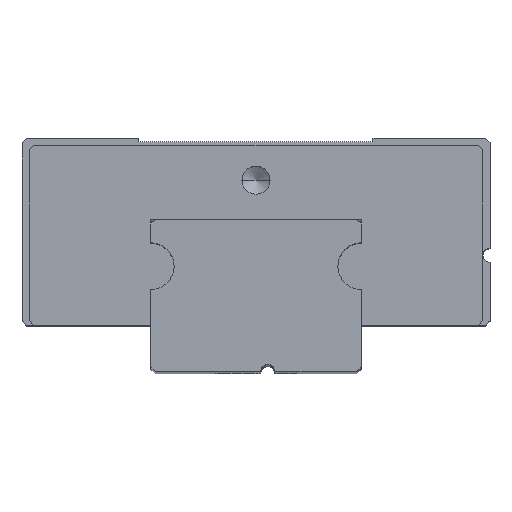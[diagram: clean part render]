
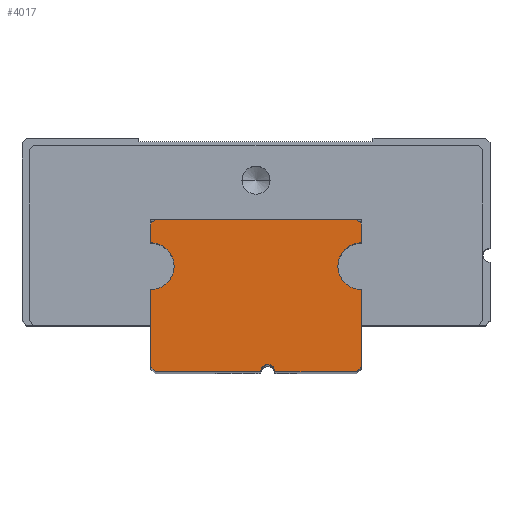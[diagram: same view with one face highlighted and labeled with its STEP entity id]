
A CAD part, top view. The second image highlights one B-rep face of the part: STEP entity #4017.
In plain terms, the highlighted planar face has unit normal (0, 0, 1).
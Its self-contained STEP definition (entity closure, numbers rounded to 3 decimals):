
#14 = DIRECTION ( 'NONE',  ( 0., 0., 1. ) ) ;
#19 = VERTEX_POINT ( 'NONE', #4116 ) ;
#30 = CARTESIAN_POINT ( 'NONE',  ( 4.5, 0., 27.5 ) ) ;
#97 = VERTEX_POINT ( 'NONE', #2324 ) ;
#131 = CARTESIAN_POINT ( 'NONE',  ( -4.5, 5.5, 27.5 ) ) ;
#163 = DIRECTION ( 'NONE',  ( 0., 0., -1. ) ) ;
#221 = CARTESIAN_POINT ( 'NONE',  ( -4.3, 6.5, 27.5 ) ) ;
#280 = DIRECTION ( 'NONE',  ( -1., 0., 0. ) ) ;
#299 = CARTESIAN_POINT ( 'NONE',  ( 4.5, 6.5, 27.5 ) ) ;
#326 = DIRECTION ( 'NONE',  ( -1., 0., 0. ) ) ;
#366 = VERTEX_POINT ( 'NONE', #4358 ) ;
#368 = CIRCLE ( 'NONE', #3164, 0.3 ) ;
#374 = CARTESIAN_POINT ( 'NONE',  ( 4.5, 6.3, 27.5 ) ) ;
#385 = VECTOR ( 'NONE', #3152, 1000. ) ;
#504 = LINE ( 'NONE', #4243, #872 ) ;
#533 = CIRCLE ( 'NONE', #1957, 1. ) ;
#594 = LINE ( 'NONE', #1340, #2951 ) ;
#595 = EDGE_CURVE ( 'NONE', #2796, #366, #594, .T. ) ;
#597 = CARTESIAN_POINT ( 'NONE',  ( 4.3, 6.5, 27.5 ) ) ;
#648 = EDGE_CURVE ( 'NONE', #4653, #366, #4675, .T. ) ;
#682 = EDGE_LOOP ( 'NONE', ( #1531, #4414, #4202, #709, #1726, #4302, #1267, #3803, #1274, #2721, #1739, #3396, #2477, #4617, #4412 ) ) ;
#709 = ORIENTED_EDGE ( 'NONE', *, *, #3066, .T. ) ;
#872 = VECTOR ( 'NONE', #2326, 1000. ) ;
#994 = EDGE_CURVE ( 'NONE', #3420, #3155, #3600, .T. ) ;
#1052 = CARTESIAN_POINT ( 'NONE',  ( 0.5, 0., 27.5 ) ) ;
#1149 = EDGE_CURVE ( 'NONE', #3484, #1270, #3455, .T. ) ;
#1220 = EDGE_CURVE ( 'NONE', #2796, #3215, #368, .T. ) ;
#1225 = DIRECTION ( 'NONE',  ( -0.707, 0.707, 0. ) ) ;
#1252 = CARTESIAN_POINT ( 'NONE',  ( -4.5, 0., 27.5 ) ) ;
#1267 = ORIENTED_EDGE ( 'NONE', *, *, #3073, .F. ) ;
#1270 = VERTEX_POINT ( 'NONE', #4876 ) ;
#1274 = ORIENTED_EDGE ( 'NONE', *, *, #2876, .F. ) ;
#1295 = DIRECTION ( 'NONE',  ( 0., 0., -1. ) ) ;
#1340 = CARTESIAN_POINT ( 'NONE',  ( 0.5, 0., 27.5 ) ) ;
#1528 = DIRECTION ( 'NONE',  ( -1., 0., 0. ) ) ;
#1531 = ORIENTED_EDGE ( 'NONE', *, *, #4656, .T. ) ;
#1541 = CARTESIAN_POINT ( 'NONE',  ( -4.5, 0.2, 27.5 ) ) ;
#1546 = CARTESIAN_POINT ( 'NONE',  ( 0.5, 0., 27.5 ) ) ;
#1581 = CARTESIAN_POINT ( 'NONE',  ( 4.5, 0., 27.5 ) ) ;
#1612 = DIRECTION ( 'NONE',  ( 0., 1., 0. ) ) ;
#1648 = VECTOR ( 'NONE', #2179, 1000. ) ;
#1675 = AXIS2_PLACEMENT_3D ( 'NONE', #4402, #163, #4016 ) ;
#1722 = LINE ( 'NONE', #4009, #4008 ) ;
#1726 = ORIENTED_EDGE ( 'NONE', *, *, #994, .T. ) ;
#1739 = ORIENTED_EDGE ( 'NONE', *, *, #595, .F. ) ;
#1764 = DIRECTION ( 'NONE',  ( 0., 0., -1. ) ) ;
#1921 = CIRCLE ( 'NONE', #2554, 1. ) ;
#1935 = VECTOR ( 'NONE', #326, 1000. ) ;
#1955 = CARTESIAN_POINT ( 'NONE',  ( 3.5, 4.5, 27.5 ) ) ;
#1957 = AXIS2_PLACEMENT_3D ( 'NONE', #4889, #14, #1528 ) ;
#1997 = FACE_OUTER_BOUND ( 'NONE', #682, .T. ) ;
#2024 = DIRECTION ( 'NONE',  ( -0.707, -0.707, 0. ) ) ;
#2056 = CARTESIAN_POINT ( 'NONE',  ( -4.3, 0., 27.5 ) ) ;
#2063 = CARTESIAN_POINT ( 'NONE',  ( 4.5, 4.5, 27.5 ) ) ;
#2179 = DIRECTION ( 'NONE',  ( 0., 1., 0. ) ) ;
#2256 = DIRECTION ( 'NONE',  ( -1., 0., 0. ) ) ;
#2324 = CARTESIAN_POINT ( 'NONE',  ( 4.5, 5.5, 27.5 ) ) ;
#2326 = DIRECTION ( 'NONE',  ( 0.707, 0.707, 0. ) ) ;
#2340 = EDGE_CURVE ( 'NONE', #3666, #97, #1921, .T. ) ;
#2350 = VECTOR ( 'NONE', #1225, 1000. ) ;
#2477 = ORIENTED_EDGE ( 'NONE', *, *, #3938, .F. ) ;
#2508 = VERTEX_POINT ( 'NONE', #2758 ) ;
#2554 = AXIS2_PLACEMENT_3D ( 'NONE', #2063, #1295, #3242 ) ;
#2585 = CARTESIAN_POINT ( 'NONE',  ( 4.5, 3.5, 27.5 ) ) ;
#2685 = DIRECTION ( 'NONE',  ( 0., 0., -1. ) ) ;
#2687 = DIRECTION ( 'NONE',  ( 0., -1., 0. ) ) ;
#2692 = DIRECTION ( 'NONE',  ( -1., 0., 0. ) ) ;
#2721 = ORIENTED_EDGE ( 'NONE', *, *, #648, .T. ) ;
#2758 = CARTESIAN_POINT ( 'NONE',  ( -4.5, 6.3, 27.5 ) ) ;
#2772 = LINE ( 'NONE', #1546, #3285 ) ;
#2796 = VERTEX_POINT ( 'NONE', #3937 ) ;
#2876 = EDGE_CURVE ( 'NONE', #4653, #4015, #4424, .T. ) ;
#2951 = VECTOR ( 'NONE', #4803, 1000. ) ;
#3050 = CARTESIAN_POINT ( 'NONE',  ( 0.8, 0., 27.5 ) ) ;
#3058 = EDGE_CURVE ( 'NONE', #4417, #97, #4691, .T. ) ;
#3066 = EDGE_CURVE ( 'NONE', #4417, #3420, #4259, .T. ) ;
#3073 = EDGE_CURVE ( 'NONE', #4179, #2508, #3973, .T. ) ;
#3152 = DIRECTION ( 'NONE',  ( 0., -1., 0. ) ) ;
#3155 = VERTEX_POINT ( 'NONE', #221 ) ;
#3163 = PLANE ( 'NONE',  #1675 ) ;
#3164 = AXIS2_PLACEMENT_3D ( 'NONE', #1052, #1764, #280 ) ;
#3215 = VERTEX_POINT ( 'NONE', #3050 ) ;
#3242 = DIRECTION ( 'NONE',  ( -1., 0., 0. ) ) ;
#3244 = EDGE_CURVE ( 'NONE', #4015, #4179, #533, .T. ) ;
#3285 = VECTOR ( 'NONE', #2692, 1000. ) ;
#3396 = ORIENTED_EDGE ( 'NONE', *, *, #1220, .T. ) ;
#3420 = VERTEX_POINT ( 'NONE', #597 ) ;
#3455 = LINE ( 'NONE', #30, #4511 ) ;
#3484 = VERTEX_POINT ( 'NONE', #2585 ) ;
#3590 = VECTOR ( 'NONE', #3612, 1000. ) ;
#3600 = LINE ( 'NONE', #299, #1935 ) ;
#3612 = DIRECTION ( 'NONE',  ( 0.707, -0.707, 0. ) ) ;
#3666 = VERTEX_POINT ( 'NONE', #1955 ) ;
#3709 = CIRCLE ( 'NONE', #4103, 1. ) ;
#3803 = ORIENTED_EDGE ( 'NONE', *, *, #3244, .F. ) ;
#3937 = CARTESIAN_POINT ( 'NONE',  ( 0.2, 0., 27.5 ) ) ;
#3938 = EDGE_CURVE ( 'NONE', #19, #3215, #2772, .T. ) ;
#3973 = LINE ( 'NONE', #1252, #4603 ) ;
#4008 = VECTOR ( 'NONE', #2024, 1000. ) ;
#4009 = CARTESIAN_POINT ( 'NONE',  ( -4.5, 6.3, 27.5 ) ) ;
#4015 = VERTEX_POINT ( 'NONE', #4270 ) ;
#4016 = DIRECTION ( 'NONE',  ( 0., -1., 0. ) ) ;
#4017 = ADVANCED_FACE ( 'NONE', ( #1997 ), #3163, .F. ) ;
#4089 = CARTESIAN_POINT ( 'NONE',  ( -4.5, 0., 27.5 ) ) ;
#4103 = AXIS2_PLACEMENT_3D ( 'NONE', #4595, #2685, #2256 ) ;
#4116 = CARTESIAN_POINT ( 'NONE',  ( 4.3, 0., 27.5 ) ) ;
#4159 = EDGE_CURVE ( 'NONE', #19, #1270, #504, .T. ) ;
#4179 = VERTEX_POINT ( 'NONE', #131 ) ;
#4197 = EDGE_CURVE ( 'NONE', #3155, #2508, #1722, .T. ) ;
#4202 = ORIENTED_EDGE ( 'NONE', *, *, #3058, .F. ) ;
#4243 = CARTESIAN_POINT ( 'NONE',  ( 4.5, 0.2, 27.5 ) ) ;
#4259 = LINE ( 'NONE', #4615, #2350 ) ;
#4270 = CARTESIAN_POINT ( 'NONE',  ( -4.5, 3.5, 27.5 ) ) ;
#4302 = ORIENTED_EDGE ( 'NONE', *, *, #4197, .T. ) ;
#4358 = CARTESIAN_POINT ( 'NONE',  ( -4.3, 0., 27.5 ) ) ;
#4402 = CARTESIAN_POINT ( 'NONE',  ( 0.5, 0., 27.5 ) ) ;
#4412 = ORIENTED_EDGE ( 'NONE', *, *, #1149, .F. ) ;
#4414 = ORIENTED_EDGE ( 'NONE', *, *, #2340, .T. ) ;
#4417 = VERTEX_POINT ( 'NONE', #374 ) ;
#4424 = LINE ( 'NONE', #4089, #1648 ) ;
#4511 = VECTOR ( 'NONE', #2687, 1000. ) ;
#4595 = CARTESIAN_POINT ( 'NONE',  ( 4.5, 4.5, 27.5 ) ) ;
#4603 = VECTOR ( 'NONE', #1612, 1000. ) ;
#4615 = CARTESIAN_POINT ( 'NONE',  ( 4.3, 6.5, 27.5 ) ) ;
#4617 = ORIENTED_EDGE ( 'NONE', *, *, #4159, .T. ) ;
#4653 = VERTEX_POINT ( 'NONE', #1541 ) ;
#4656 = EDGE_CURVE ( 'NONE', #3484, #3666, #3709, .T. ) ;
#4675 = LINE ( 'NONE', #2056, #3590 ) ;
#4691 = LINE ( 'NONE', #1581, #385 ) ;
#4803 = DIRECTION ( 'NONE',  ( -1., 0., 0. ) ) ;
#4876 = CARTESIAN_POINT ( 'NONE',  ( 4.5, 0.2, 27.5 ) ) ;
#4889 = CARTESIAN_POINT ( 'NONE',  ( -4.5, 4.5, 27.5 ) ) ;
